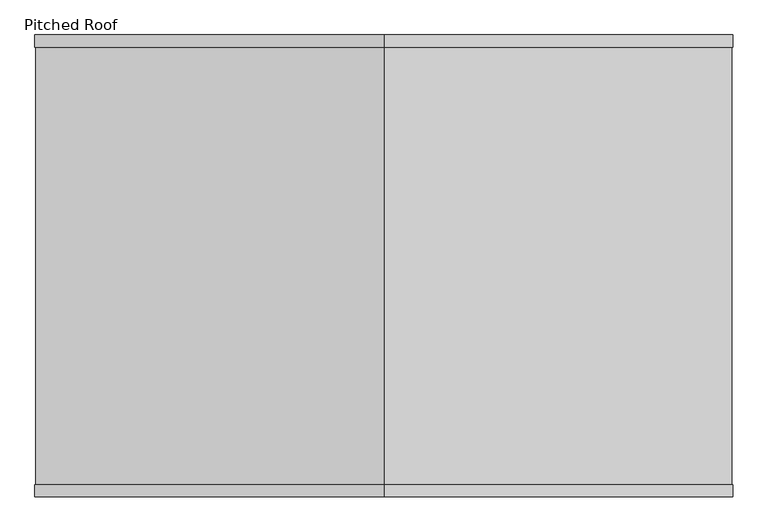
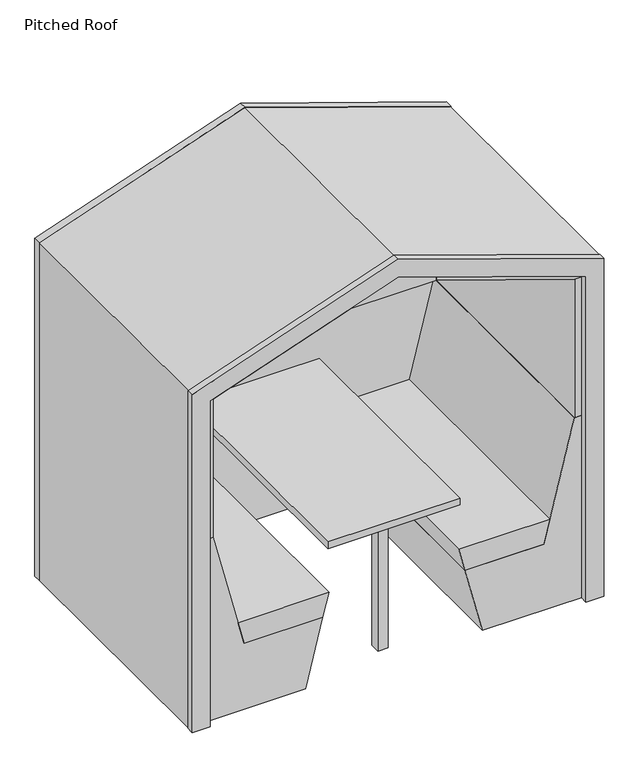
"""IFC4 building model written with IfcOpenShell, lengths in millimetres: furniture geometry, Furniture_WorkPod_Spacestor_RailwayCarriage : Pitched Roof."""

from ifc_helpers import new_model, si_unit, point, frame, frame_2d, origin, origin_with_axes, place, context, project, spatial, polyline, circle_curve, trimmed, segment, composite_curve, outline, extrude, source, transform, mapped, element, save


def pitched_roof_1852673e(model_context):
    return source(origin(), model_context, "Body", "SweptSolid", [
        extrude(outline(composite_curve([segment(trimmed(circle_curve(frame_2d((988.5, -1002.0)), 15.0), [point((973.5, -1002.0))], [point((1003.5, -1002.0))], False, "CARTESIAN"), True, "CONTINUOUS"), segment(trimmed(circle_curve(frame_2d((988.5, -1002.0)), 15.0), [point((1003.5, -1002.0))], [point((973.5, -1002.0))], False, "CARTESIAN"), True, "CONTINUOUS")], self_intersect=False)), origin_with_axes(), (0.0, 0.0, 1.0), 15.0),
        extrude(outline(composite_curve([segment(trimmed(circle_curve(frame_2d((-988.5, -1002.0)), 15.0), [point((-1003.5, -1002.0))], [point((-973.5, -1002.0))], False, "CARTESIAN"), True, "CONTINUOUS"), segment(trimmed(circle_curve(frame_2d((-988.5, -1002.0)), 15.0), [point((-973.5, -1002.0))], [point((-1003.5, -1002.0))], False, "CARTESIAN"), True, "CONTINUOUS")], self_intersect=False)), origin_with_axes(), (0.0, 0.0, 1.0), 15.0),
        extrude(outline(composite_curve([segment(trimmed(circle_curve(frame_2d((988.5, -167.0)), 15.0), [point((973.5, -167.0))], [point((1003.5, -167.0))], False, "CARTESIAN"), True, "CONTINUOUS"), segment(trimmed(circle_curve(frame_2d((988.5, -167.0)), 15.0), [point((1003.5, -167.0))], [point((973.5, -167.0))], False, "CARTESIAN"), True, "CONTINUOUS")], self_intersect=False)), origin_with_axes(), (0.0, 0.0, 1.0), 15.0),
        extrude(outline(composite_curve([segment(trimmed(circle_curve(frame_2d((-988.5, -167.0)), 15.0), [point((-1003.5, -167.0))], [point((-973.5, -167.0))], False, "CARTESIAN"), True, "CONTINUOUS"), segment(trimmed(circle_curve(frame_2d((-988.5, -167.0)), 15.0), [point((-973.5, -167.0))], [point((-1003.5, -167.0))], False, "CARTESIAN"), True, "CONTINUOUS")], self_intersect=False)), origin_with_axes(), (0.0, 0.0, 1.0), 15.0),
        extrude(outline(polyline([(3.0, -940.0), (1724.2324375, -940.0), (2047.900394, 0.0), (1724.2324375, 940.0), (3.0, 940.0), (3.0, 1030.0), (1788.4288136, 1030.0), (2143.0862553, 0.0), (1788.4288136, -1030.0), (3.0, -1030.0), (3.0, -940.0)])), frame((0.0, 61.0, 0.0), z_axis=(0.0, 1.0, 0.0), x_axis=(0.0, 0.0, 1.0)), (0.0, 0.0, 1.0), 36.0),
        extrude(outline(polyline([(3.0, -940.0), (1724.2324375, -940.0), (2047.900394, 0.0), (1724.2324375, 940.0), (3.0, 940.0), (3.0, 1030.0), (1788.4288136, 1030.0), (2143.0862553, 0.0), (1788.4288136, -1030.0), (3.0, -1030.0), (3.0, -940.0)])), frame((0.0, -1266.0, 0.0), z_axis=(0.0, 1.0, 0.0), x_axis=(0.0, 0.0, 1.0)), (0.0, 0.0, 1.0), 36.0),
        extrude(outline(polyline([(2047.56, -85.4562969), (2003.8153449, -212.5), (1937.9, -212.5), (1937.9, 212.5), (2003.8153449, 212.5), (2047.56, 85.4562969), (2047.56, -85.4562969)])), frame((0.0, -1230.0, 0.0), z_axis=(0.0, 1.0, 0.0), x_axis=(0.0, 0.0, 1.0)), (0.0, 0.0, 1.0), 1230.0),
        extrude(outline(polyline([(-904.5, -1230.0), (-966.5, -1230.0), (-966.5, 0.0), (-904.5, 0.0), (-904.5, -1230.0)])), frame((0.0, 0.0, 969.0), z_axis=(0.0, 0.0, 1.0), x_axis=(1.0, 0.0, 0.0)), (0.0, 0.0, 1.0), 730.63),
        extrude(outline(polyline([(966.5, -1230.0), (904.5, -1230.0), (904.5, 0.0), (966.5, 0.0), (966.5, -1230.0)])), frame((0.0, 0.0, 969.0), z_axis=(0.0, 0.0, 1.0), x_axis=(1.0, 0.0, 0.0)), (0.0, 0.0, 1.0), 730.63),
        extrude(outline(polyline([(1744.1923245, -966.5), (1699.6238267, -966.5), (1699.6238267, -904.5), (1937.8985351, -212.5), (2003.8153449, -212.5), (1744.1923245, -966.5)])), frame((0.0, -1230.0, 0.0), z_axis=(0.0, 1.0, 0.0), x_axis=(0.0, 0.0, 1.0)), (0.0, 0.0, 1.0), 1230.0),
        extrude(outline(polyline([(1744.1923245, 966.5), (2003.8153449, 212.5), (1937.8985351, 212.5), (1699.6238267, 904.5), (1699.6238267, 966.5), (1744.1923245, 966.5)])), frame((0.0, -1230.0, 0.0), z_axis=(0.0, 1.0, 0.0), x_axis=(0.0, 0.0, 1.0)), (0.0, 0.0, 1.0), 1230.0),
        extrude(outline(polyline([(354.0, -750.5348655), (354.0, -355.6348655), (475.0, -325.4661771), (475.0, -780.6245423), (354.0, -750.5348655)])), frame((0.0, -1230.0, 0.0), z_axis=(0.0, 1.0, 0.0), x_axis=(0.0, 0.0, 1.0)), (0.0, 0.0, 1.0), 1230.0),
        extrude(outline(polyline([(354.0, 750.5348655), (475.0, 780.6245423), (475.0, 325.4661771), (354.0, 355.6348655), (354.0, 750.5348655)])), frame((0.0, -1230.0, 0.0), z_axis=(0.0, 1.0, 0.0), x_axis=(0.0, 0.0, 1.0)), (0.0, 0.0, 1.0), 1230.0),
        extrude(outline(polyline([(969.0, -903.47), (969.0, -967.0), (6.0, -967.0), (6.0, -442.4010105), (354.0, -355.6348655), (354.0, -750.5348655), (969.0, -903.47)])), frame((0.0, -1230.0, 0.0), z_axis=(0.0, 1.0, 0.0), x_axis=(0.0, 0.0, 1.0)), (0.0, 0.0, 1.0), 1230.0),
        extrude(outline(polyline([(969.0, 903.47), (354.0, 750.5348655), (354.0, 355.6348655), (6.0, 442.4010105), (6.0, 967.0), (969.0, 967.0), (969.0, 903.47)])), frame((0.0, -1230.0, 0.0), z_axis=(0.0, 1.0, 0.0), x_axis=(0.0, 0.0, 1.0)), (0.0, 0.0, 1.0), 1230.0),
        extrude(outline(polyline([(25.0, -1085.0), (25.0, -1135.0), (-25.0, -1135.0), (-25.0, -1085.0), (25.0, -1085.0)])), frame((0.0, 0.0, 1.5), z_axis=(0.0, 0.0, 1.0), x_axis=(1.0, 0.0, 0.0)), (0.0, 0.0, 1.0), 705.0),
        extrude(outline(polyline([(330.0, 0.0), (330.0, -1230.0), (-330.0, -1230.0), (-330.0, 0.0), (330.0, 0.0)])), frame((0.0, 0.0, 708.0), z_axis=(0.0, 0.0, 1.0), x_axis=(1.0, 0.0, 0.0)), (0.0, 0.0, 1.0), 36.0),
        extrude(outline(polyline([(3.0, -940.0), (3.0, 940.0), (1724.2324375, 940.0), (2047.900394, 0.0), (1724.2324375, -940.0), (3.0, -940.0)])), frame((0.0, 61.0, 0.0), z_axis=(0.0, 1.0, 0.0), x_axis=(0.0, 0.0, 1.0)), (0.0, 0.0, 1.0), 18.0),
        extrude(outline(polyline([(-967.5, 6.0), (967.5, 6.0), (967.5, -12.0), (-967.5, -12.0), (-967.5, 6.0)])), frame((0.0, 0.0, 3.0), z_axis=(0.0, 0.0, 1.0), x_axis=(1.0, 0.0, 0.0)), (0.0, 0.0, 1.0), 966.0),
        extrude(outline(polyline([(969.0, -967.5), (969.0, 967.5), (1788.7968758, 967.5), (2121.9338417, 0.0), (1788.7968758, -967.5), (969.0, -967.5)])), frame((0.0, -12.0, 0.0), z_axis=(0.0, 1.0, 0.0), x_axis=(0.0, 0.0, 1.0)), (0.0, 0.0, 1.0), 18.0),
        extrude(outline(polyline([(3.0, -1010.0), (1774.1629523, -1010.0), (2121.9338417, 0.0), (1774.1629523, 1010.0), (3.0, 1010.0), (3.0, 1028.0), (1787.0022275, 1028.0), (2140.971014, 0.0), (1787.0022275, -1028.0), (3.0, -1028.0), (3.0, -1010.0)])), frame((0.0, -1230.0, 0.0), z_axis=(0.0, 1.0, 0.0), x_axis=(0.0, 0.0, 1.0)), (0.0, 0.0, 1.0), 1291.0),
    ])


if __name__ == "__main__":
    model = new_model("IFC4")
    model_context = context("Model", 3, world=origin())
    ifc_project = project(units=[si_unit("LENGTHUNIT", "METRE", prefix="MILLI")], contexts=[model_context])
    site = spatial("IfcSite", under=ifc_project)
    building = spatial("IfcBuilding", under=site)
    placement = place(None, origin())
    pitched_roof_shape = pitched_roof_1852673e(model_context)
    element("IfcFurniture", 1, ObjectType="Furniture_WorkPod_Spacestor_RailwayCarriage : Pitched Roof", at=placement, inside=building, context=model_context, shape_type="MappedRepresentation", body=[
        mapped(pitched_roof_shape, transform((0.0, 0.0, 0.0), x_axis=(1.0, 0.0, 0.0), y_axis=(0.0, 1.0, 0.0), z_axis=(0.0, 0.0, 1.0))),
    ])
    save(model, "model.ifc")
